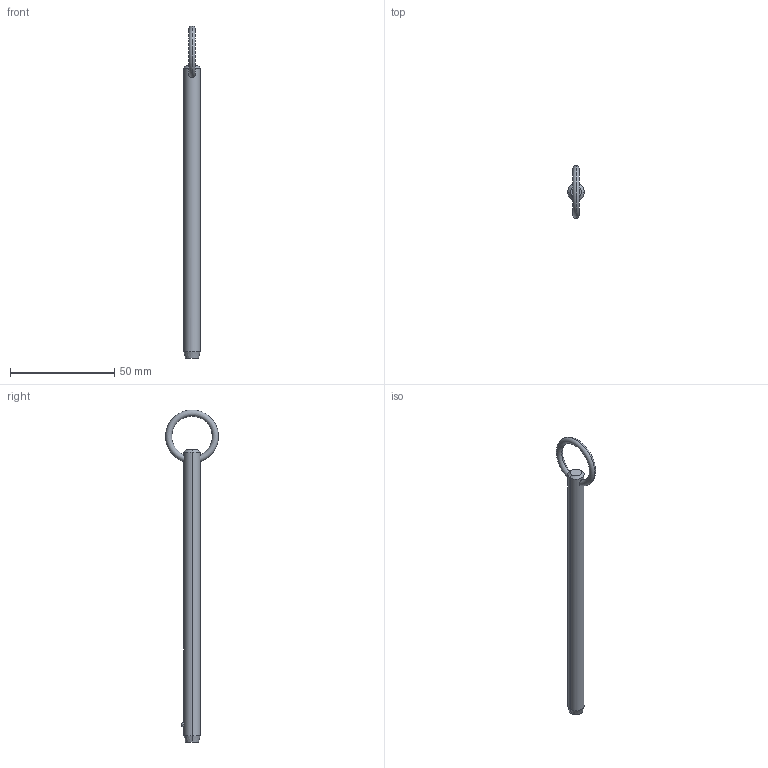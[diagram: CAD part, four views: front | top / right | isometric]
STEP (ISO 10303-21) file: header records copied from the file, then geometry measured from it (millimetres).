
FILE_DESCRIPTION (( 'STEP AP203' ), '1' );
FILE_NAME ('P1250.031-490.step', '2019-07-29T19:57:28', ( '' ), ( '' ), 'SwSTEP 2.0', 'SolidWorks 2017', '' );
FILE_SCHEMA (( 'CONFIG_CONTROL_DESIGN' ));
Length unit declared in the file: millimetre
Products named in the file (1): P1250.031-490
Bounding box: 7.93 x 25.36 x 159.41 mm (x, y, z)
Volume: 7333.3 mm3; surface area: 4132.4 mm2
Topology: 1 solids, 1 shells, 12 faces, 28 edges, 17 vertices
Faces by surface type: cone 4, torus 2, sphere 2, cylinder 2, plane 2
Entity records: 509 total; most frequent: CARTESIAN_POINT 176, DIRECTION 56, ORIENTED_EDGE 48, AXIS2_PLACEMENT_3D 25, EDGE_CURVE 24, EDGE_LOOP 15, VERTEX_POINT 15, FACE_OUTER_BOUND 12
